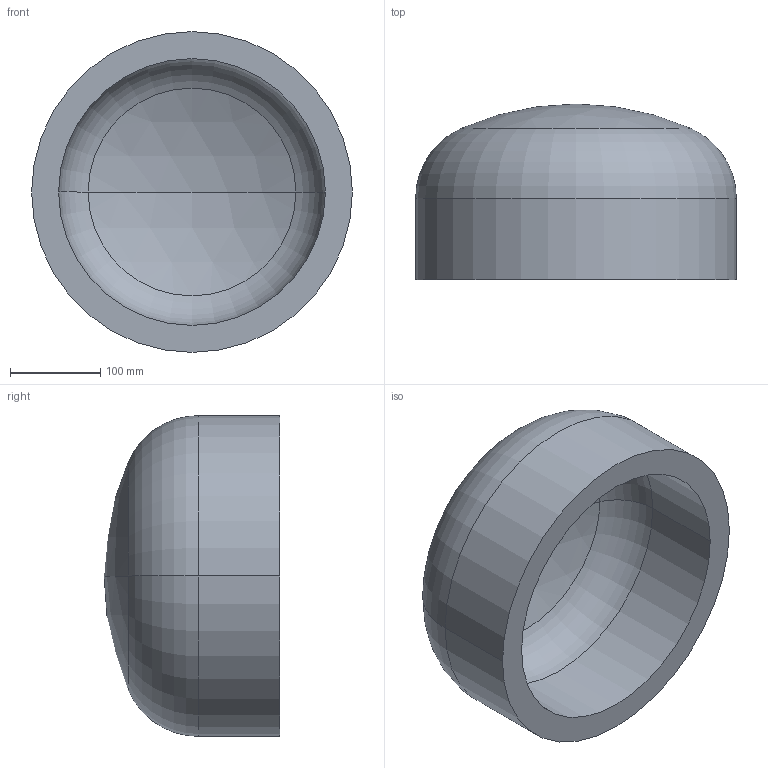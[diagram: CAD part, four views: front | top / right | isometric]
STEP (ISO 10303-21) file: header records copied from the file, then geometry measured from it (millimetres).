
FILE_DESCRIPTION (( 'STEP AP203' ), '1' );
FILE_NAME ('DIN 28013 Korbbogenform_-_Boden DIN 28013 - 355,6 x 90 - I - s=30.step', '2016-07-01T07:47:27', ( '' ), ( '' ), 'SwSTEP 2.0', 'SolidWorks 2013', '' );
FILE_SCHEMA (( 'CONFIG_CONTROL_DESIGN' ));
Length unit declared in the file: millimetre
Products named in the file (1): DIN 28013 Korbbogenform_-_Boden DIN 28013 - 355,6 x 90 - I - s=30
Bounding box: 355.6 x 194.65 x 355.6 mm (x, y, z)
Volume: 6478555.7 mm3; surface area: 464475.7 mm2
Topology: 1 solids, 1 shells, 13 faces, 24 edges, 14 vertices
Faces by surface type: torus 4, cylinder 4, sphere 4, plane 1
Entity records: 407 total; most frequent: DIRECTION 72, CARTESIAN_POINT 52, ORIENTED_EDGE 48, AXIS2_PLACEMENT_3D 34, EDGE_CURVE 24, CIRCLE 20, EDGE_LOOP 14, VERTEX_POINT 14
